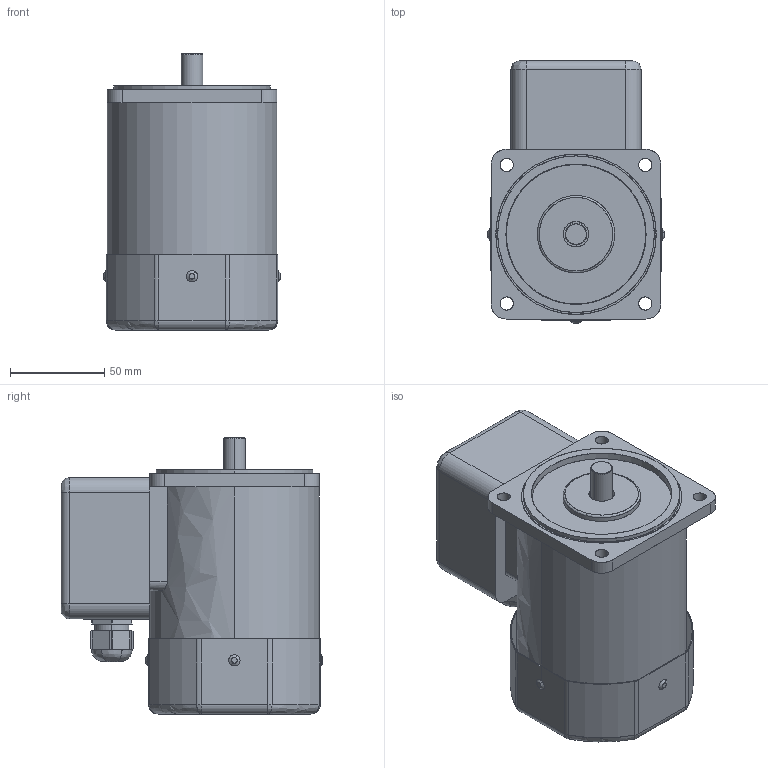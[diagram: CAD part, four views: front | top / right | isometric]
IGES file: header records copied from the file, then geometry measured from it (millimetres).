
Start section: SolidWorks IGES file using analytic representation for surfaces
Bounding box: 94 x 139 x 146.5 mm (x, y, z)
Surface area: 116221.2 mm2 (no closed solid volume)
Topology: 0 solids, 0 shells, 208 faces, 3003 edges, 2995 vertices
Faces by surface type: bspline 112, revolution 96
